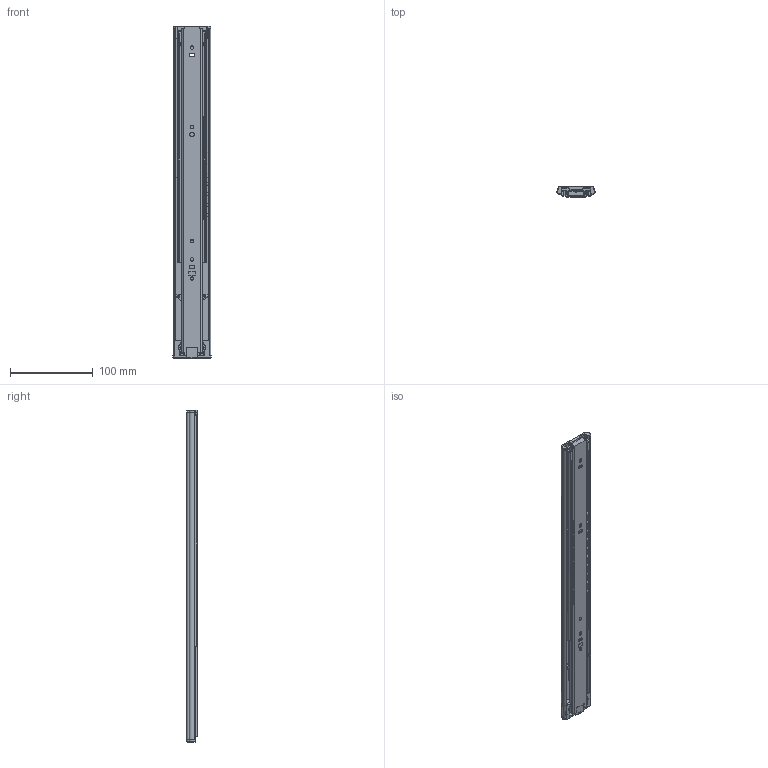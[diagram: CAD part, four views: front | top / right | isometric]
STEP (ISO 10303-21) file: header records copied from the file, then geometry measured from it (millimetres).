
FILE_DESCRIPTION((''),'2;1');
FILE_NAME('C:\Users\Jennes.SOLINGEN\Desktop\Melches\NeueFormate\TS 454613-400 SC\TS 454613 - 400mm SC.stp','2011-01-20T11:24:06',('jennes'),(''),'Autodesk Inventor 2010','Autodesk Inventor 2010','');
FILE_SCHEMA(('AUTOMOTIVE_DESIGN { 1 0 10303 214 1 1 1 1 }'));
Length unit declared in the file: millimetre
Products named in the file (24): TS 454613 - 400mm SC; Schiene gross 400; Endkappe Schiene gross; Softclose; Führung für Schieber; Gummi Puffer; Schieber; Riegel; Zylinderkolben; Zylinderstange; Kugelkäfigleiste 400; Kugel 4,75mm; Schiene mittig 400; Endkappe Schiene mittig; Kugelkäfig 400; Schiene schmall 400; Niete; Schliesser; Sicherung
Assembly tree (49 placements, depth 4):
  TS 454613 - 400mm SC
    Schiene gross 400
      Schiene gross 400
      Endkappe Schiene gross
      Softclose
        Führung für Schieber
        Gummi Puffer
        Schieber
        Riegel
        Zylinderkolben
        Zylinderstange
    Kugelkäfigleiste 400  x2
      Kugelkäfigleiste 400
      Kugel 4,75mm
    Schiene mittig 400
      Schiene mittig 400
      Endkappe Schiene mittig
    Kugelkäfig 400
      Kugelkäfig 400
      Kugel 4,75mm  x20
    Schiene schmall 400
      Schiene schmall 400
      Niete  x2
      Schliesser
      Sicherung
Bounding box: 45.98 x 12.5 x 401.1 mm (x, y, z)
Volume: 90954.9 mm3; surface area: 143314.6 mm2
Topology: 49 solids, 49 shells, 1614 faces, 4640 edges, 2957 vertices
Faces by surface type: plane 909, cylinder 554, sphere 54, torus 49, bspline 48
Full cylindrical faces by diameter (mm): 1.15 x1, 1.78 x2, 1.8 x1, 2.35 x2, 2.45 x1, 3 x2, 3.3 x2, 4.2 x2, 4.4 x3, 4.6 x5, 4.95 x10, 5 x4, 5.3 x1, 5.4 x1, 6.4 x3, 7.8 x2, 9 x1, 9.3 x1, 9.55 x1, 11 x5
Entity records: 52731 total; most frequent: CARTESIAN_POINT 10905, ORIENTED_EDGE 8700, DIRECTION 8533, EDGE_CURVE 4350, VECTOR 3119, LINE 3119, VERTEX_POINT 2828, AXIS2_PLACEMENT_3D 2707
